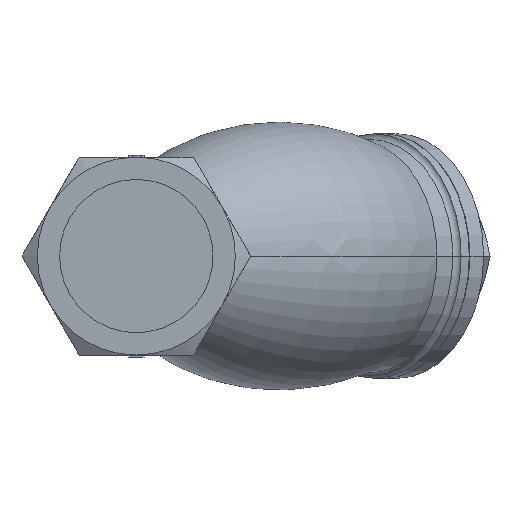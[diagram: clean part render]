
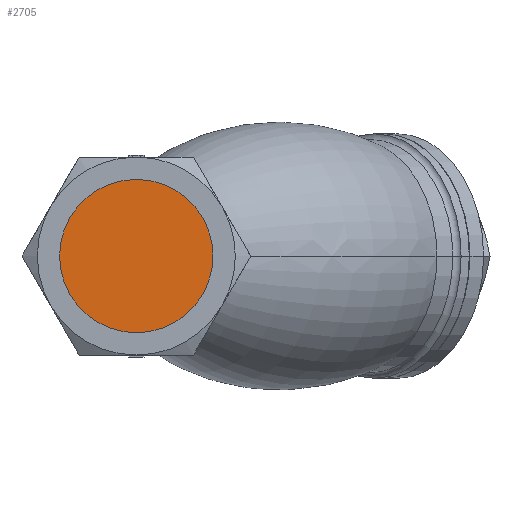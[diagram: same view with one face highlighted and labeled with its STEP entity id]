
A CAD part, left-side view. The second image highlights one B-rep face of the part: STEP entity #2705.
In plain terms, the highlighted planar face has unit normal (-1, 0, 0).
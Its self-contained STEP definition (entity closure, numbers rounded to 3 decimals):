
#123 = EDGE_LOOP ( 'NONE', ( #2625, #2174 ) ) ;
#143 = EDGE_CURVE ( 'NONE', #1755, #990, #1810, .T. ) ;
#226 = FACE_OUTER_BOUND ( 'NONE', #123, .T. ) ;
#279 = CARTESIAN_POINT ( 'NONE',  ( -27.5, 0., 0. ) ) ;
#453 = DIRECTION ( 'NONE',  ( 0., 0., 1. ) ) ;
#879 = CARTESIAN_POINT ( 'NONE',  ( -27.5, 0., 0. ) ) ;
#990 = VERTEX_POINT ( 'NONE', #1348 ) ;
#1124 = CIRCLE ( 'NONE', #3562, 19.75 ) ;
#1194 = DIRECTION ( 'NONE',  ( -1., 0., 0. ) ) ;
#1348 = CARTESIAN_POINT ( 'NONE',  ( -27.5, 0., 19.75 ) ) ;
#1521 = CARTESIAN_POINT ( 'NONE',  ( -27.5, 0., 0. ) ) ;
#1587 = DIRECTION ( 'NONE',  ( -1., 0., 0. ) ) ;
#1755 = VERTEX_POINT ( 'NONE', #3409 ) ;
#1810 = CIRCLE ( 'NONE', #4262, 19.75 ) ;
#2174 = ORIENTED_EDGE ( 'NONE', *, *, #143, .T. ) ;
#2547 = DIRECTION ( 'NONE',  ( 0., 0., 1. ) ) ;
#2625 = ORIENTED_EDGE ( 'NONE', *, *, #3294, .T. ) ;
#2705 = ADVANCED_FACE ( 'NONE', ( #226 ), #3879, .T. ) ;
#2815 = DIRECTION ( 'NONE',  ( -1., 0., 0. ) ) ;
#3079 = AXIS2_PLACEMENT_3D ( 'NONE', #879, #2815, #453 ) ;
#3294 = EDGE_CURVE ( 'NONE', #990, #1755, #1124, .T. ) ;
#3409 = CARTESIAN_POINT ( 'NONE',  ( -27.5, 0., -19.75 ) ) ;
#3562 = AXIS2_PLACEMENT_3D ( 'NONE', #1521, #1194, #2547 ) ;
#3879 = PLANE ( 'NONE',  #3079 ) ;
#4262 = AXIS2_PLACEMENT_3D ( 'NONE', #279, #1587, #4267 ) ;
#4267 = DIRECTION ( 'NONE',  ( 0., 0., 1. ) ) ;
